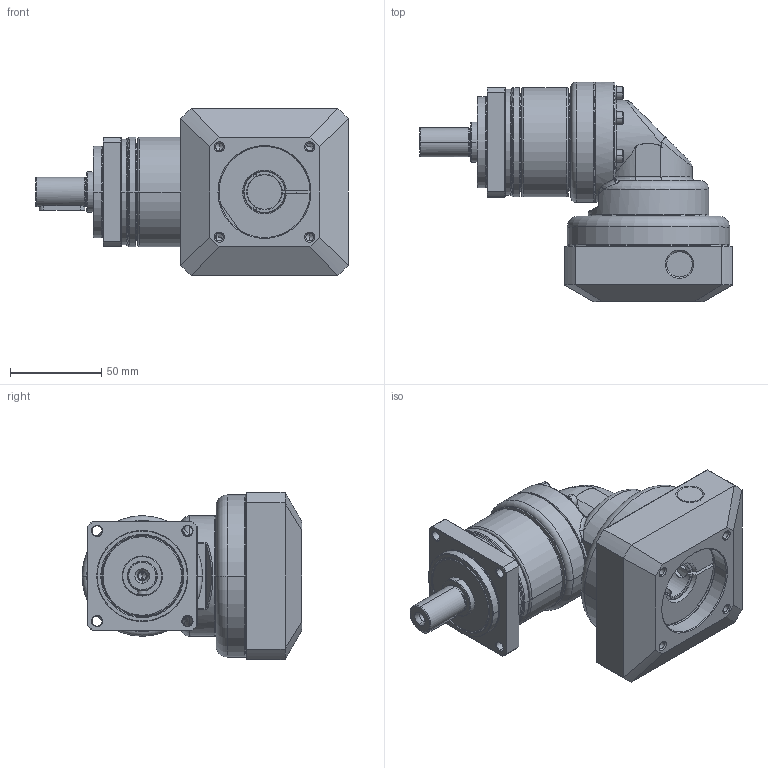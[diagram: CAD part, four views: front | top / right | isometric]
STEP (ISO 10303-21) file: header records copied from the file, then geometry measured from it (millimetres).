
FILE_DESCRIPTION((''),'2;1');
FILE_NAME('PA2R-060_1ST_19-P0411400101_ASM','2016-05-12T',('d01943'),(''),'PRO/ENGINEER BY PARAMETRIC TECHNOLOGY CORPORATION, 2008410','PRO/ENGINEER BY PARAMETRIC TECHNOLOGY CORPORATION, 2008410','');
FILE_SCHEMA(('CONFIG_CONTROL_DESIGN'));
Length unit declared in the file: millimetre
Products named in the file (12): P1327210001; P0250200001; P0350200001; P1349200001; P1017200001; P0713203001; P0503400008; P1350200301; P0411400101; P1702500001; 2111B104020; PA2R-060_1ST_19-P0411400101_ASM
Assembly tree (16 placements, depth 2):
  PA2R-060_1ST_19-P0411400101_ASM
    P1327210001
    P0250200001
    P0350200001
    P1349200001
    P1017200001
    P0713203001
    P0503400008
    P1350200301
    P0411400101
    P1702500001
    2111B104020  x6
Bounding box: 171.5 x 120.5 x 92 mm (x, y, z)
Volume: 519676.1 mm3; surface area: 141212.7 mm2
Topology: 16 solids, 16 shells, 808 faces, 1771 edges, 1023 vertices
Faces by surface type: cylinder 244, cone 234, plane 202, torus 96, bspline 32
Entity records: 23670 total; most frequent: CARTESIAN_POINT 9242, DIRECTION 3195, ORIENTED_EDGE 2790, EDGE_CURVE 1395, AXIS2_PLACEMENT_3D 1343, VERTEX_POINT 823, EDGE_LOOP 730, CIRCLE 704
